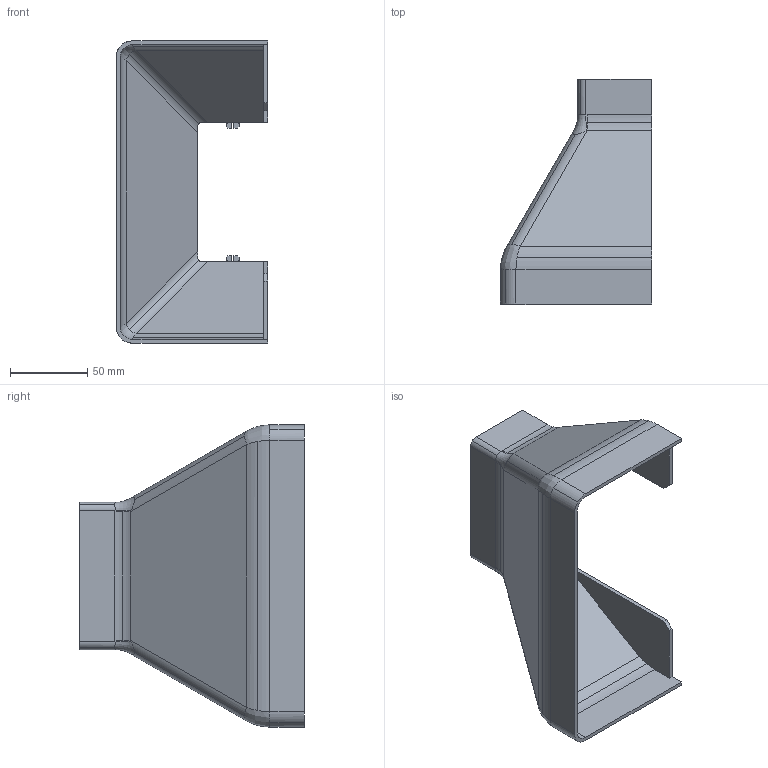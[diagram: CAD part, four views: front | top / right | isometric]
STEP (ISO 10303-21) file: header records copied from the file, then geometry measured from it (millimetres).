
FILE_DESCRIPTION (( 'STEP AP214' ), '1' );
FILE_NAME ('1.5044 Lattiakiinnikkeen 90 päätysuoja.STEP', '2025-09-16T09:58:19', ( '' ), ( '' ), 'SwSTEP 2.0', 'SolidWorks 2025', '' );
FILE_SCHEMA (( 'AUTOMOTIVE_DESIGN' ));
Length unit declared in the file: millimetre
Products named in the file (1): 1.5044 Lattiakiinnikkeen 90 päätysuoja
Bounding box: 97.5 x 145 x 195 mm (x, y, z)
Volume: 124660.8 mm3; surface area: 101686.9 mm2
Topology: 1 solids, 1 shells, 116 faces, 304 edges, 194 vertices
Faces by surface type: plane 64, cylinder 42, bspline 10
Entity records: 5235 total; most frequent: CARTESIAN_POINT 2511, ORIENTED_EDGE 608, DIRECTION 482, EDGE_CURVE 304, VECTOR 208, LINE 208, VERTEX_POINT 194, AXIS2_PLACEMENT_3D 137
